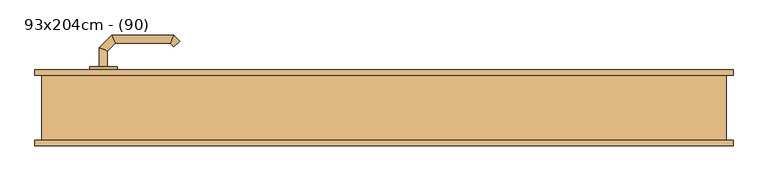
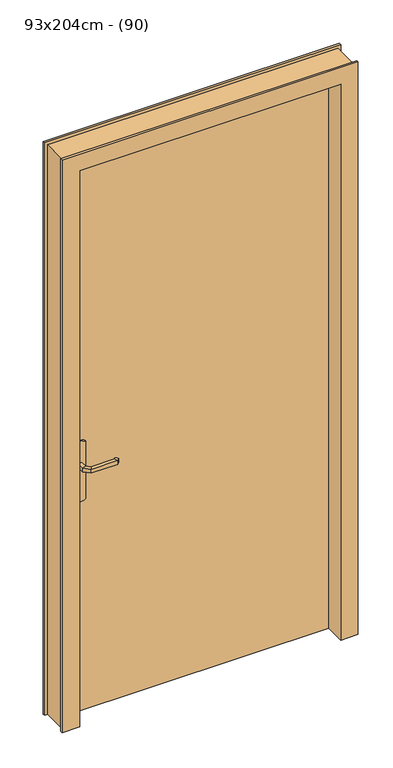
"""IFC4 building model written with IfcOpenShell, lengths in millimetres: door geometry, C&L Int. Simple vantail (dormant variable) : 93x204cm - (90)."""

import ifcopenshell
import ifcopenshell.guid

model = None  # the IFC model being written
_history = None  # IfcOwnerHistory: only IFC2X3 demands one
_inside = {}  # id of a spatial element -> (the spatial element, [elements in it])
_under = {}  # id of a project, library or spatial element -> (it, [spatial elements below it])
_declared = {}  # id of a project -> (the project, [libraries it declares])
_typed = {}  # id of a type object -> (the type object, [elements of that type])
_made_of = {}  # id of a material, layer set ... -> (it, [elements and type objects made of it])


def new_model(schema):
    """Start an empty IFC model of exactly this schema.

    Asked for "IFC4X3", IfcOpenShell would pick the latest addendum, in which some entities
    have other attributes; the version numbers below select the first issue.
    IFC2X3 requires an IfcOwnerHistory on every rooted entity: one is made here for all.
    """
    global model, _history
    if schema == "IFC4X3":
        model = ifcopenshell.file(schema_version=(4, 3, 0, 0))
    else:
        model = ifcopenshell.file(schema=schema)
    _inside.clear()
    _under.clear()
    _declared.clear()
    _typed.clear()
    _made_of.clear()
    _history = None
    if model.schema == "IFC2X3":
        org = make("IfcOrganization", Name="unknown")
        user = make(
            "IfcPersonAndOrganization",
            ThePerson=make("IfcPerson", FamilyName="unknown"),
            TheOrganization=org,
        )
        app = make(
            "IfcApplication",
            ApplicationDeveloper=org,
            Version="unknown",
            ApplicationFullName="unknown",
            ApplicationIdentifier="unknown",
        )
        _history = make(
            "IfcOwnerHistory",
            OwningUser=user,
            OwningApplication=app,
            ChangeAction="ADDED",
            CreationDate=0,
        )
    return model


def make(cls, **values):
    """One entity of the class cls with the attributes given. An attribute that is None is left unset."""
    return model.create_entity(
        cls, **{name: value for name, value in values.items() if value is not None}
    )


def rooted(cls, **values):
    """An entity with a GlobalId (a new one), such as an element, a storey or a relation."""
    return make(cls, GlobalId=ifcopenshell.guid.new(), OwnerHistory=_history, **values)


def si_unit(unit_type, name, prefix=None):
    """IfcSIUnit, for example si_unit("LENGTHUNIT", "METRE", prefix="MILLI")."""
    return make("IfcSIUnit", UnitType=unit_type, Prefix=prefix, Name=name)


def assignment(units):
    """IfcUnitAssignment: the units of a project."""
    return None if units is None else make("IfcUnitAssignment", Units=units)


def point(xyz):
    """IfcCartesianPoint."""
    return None if xyz is None else make("IfcCartesianPoint", Coordinates=xyz)


def direction(xyz):
    """IfcDirection."""
    return None if xyz is None else make("IfcDirection", DirectionRatios=xyz)


def frame(location, z_axis=None, x_axis=None):
    """IfcAxis2Placement3D, a coordinate frame: its origin and axes. An axis left out is left unset."""
    return make(
        "IfcAxis2Placement3D",
        Location=point(location),
        Axis=direction(z_axis),
        RefDirection=direction(x_axis),
    )


def frame_2d(location, x_axis=None):
    """IfcAxis2Placement2D, a coordinate frame in the plane: its origin and x axis."""
    return make(
        "IfcAxis2Placement2D", Location=point(location), RefDirection=direction(x_axis)
    )


def origin():
    """The frame at (0, 0, 0) with its axes left unset."""
    return frame((0.0, 0.0, 0.0))


def origin_with_axes():
    """The frame at (0, 0, 0) with the z axis (0, 0, 1) and the x axis (1, 0, 0) written out."""
    return frame((0.0, 0.0, 0.0), z_axis=(0.0, 0.0, 1.0), x_axis=(1.0, 0.0, 0.0))


def place(relative_to, where):
    """IfcLocalPlacement: puts the frame where relative to a parent placement (None: the world)."""
    return make(
        "IfcLocalPlacement", PlacementRelTo=relative_to, RelativePlacement=where
    )


def context(
    kind, dimensions, precision=None, world=None, true_north=None, identifier=None
):
    """IfcGeometricRepresentationContext, for example the 3D "Model" context."""
    return make(
        "IfcGeometricRepresentationContext",
        ContextIdentifier=identifier,
        ContextType=kind,
        CoordinateSpaceDimension=dimensions,
        Precision=precision,
        WorldCoordinateSystem=world,
        TrueNorth=true_north,
    )


def project(units=None, contexts=None):
    """IfcProject with its units and contexts."""
    return rooted(
        "IfcProject",
        Name="project",
        RepresentationContexts=contexts,
        UnitsInContext=assignment(units),
    )


def spatial(cls, under=None, at=None, **own):
    """A site, building, storey or space (cls), placed at a placement, below another one or the project."""
    s = rooted(cls, ObjectPlacement=at, **own)
    if under is not None:
        _under.setdefault(under.id(), (under, []))[1].append(s)
    return s


def polyline(points):
    """IfcPolyline through the points."""
    return make("IfcPolyline", Points=[point(p) for p in points])


def circle_curve(where, radius):
    """IfcCircle in the frame where."""
    return make("IfcCircle", Position=where, Radius=radius)


def ellipse_curve(where, semi_axis1, semi_axis2):
    """IfcEllipse in the frame where."""
    return make(
        "IfcEllipse", Position=where, SemiAxis1=semi_axis1, SemiAxis2=semi_axis2
    )


def trimmed(basis, trim1, trim2, sense, master):
    """IfcTrimmedCurve: the piece of a basis curve between two trims."""
    return make(
        "IfcTrimmedCurve",
        BasisCurve=basis,
        Trim1=trim1,
        Trim2=trim2,
        SenseAgreement=sense,
        MasterRepresentation=master,
    )


def segment(curve, same_sense, transition):
    """IfcCompositeCurveSegment."""
    return make(
        "IfcCompositeCurveSegment",
        Transition=transition,
        SameSense=same_sense,
        ParentCurve=curve,
    )


def composite_curve(segments, self_intersect=None):
    """IfcCompositeCurve: segments joined end to end."""
    return make("IfcCompositeCurve", Segments=segments, SelfIntersect=self_intersect)


def outline(outer, holes=None, kind="AREA"):
    """IfcArbitraryClosedProfileDef: a profile drawn as a closed curve; with holes, ...WithVoids."""
    if holes is None:
        return make("IfcArbitraryClosedProfileDef", ProfileType=kind, OuterCurve=outer)
    return make(
        "IfcArbitraryProfileDefWithVoids",
        ProfileType=kind,
        OuterCurve=outer,
        InnerCurves=holes,
    )


def extrude(swept, where, along, depth):
    """IfcExtrudedAreaSolid: the profile swept, set in the frame where, extruded along a direction by depth."""
    return make(
        "IfcExtrudedAreaSolid",
        SweptArea=swept,
        Position=where,
        ExtrudedDirection=direction(along),
        Depth=depth,
    )


def faces_of(points, faces, orient=None, outer=None):
    """IfcFace entities. A face is a list of loops; a loop is a list of indices into points, from 0.

    orient and outer hold one flag for each loop. By default every Orientation is true, the
    first loop of a face is its IfcFaceOuterBound and the others are IfcFaceBound.
    """
    made = []
    for i, loops in enumerate(faces):
        bounds = []
        for j, loop in enumerate(loops):
            is_outer = j == 0 if outer is None else outer[i][j]
            bounds.append(
                make(
                    "IfcFaceOuterBound" if is_outer else "IfcFaceBound",
                    Bound=make("IfcPolyLoop", Polygon=[points[k] for k in loop]),
                    Orientation=True if orient is None else orient[i][j],
                )
            )
        made.append(make("IfcFace", Bounds=bounds))
    return made


def faceted_brep(points, faces, orient=None, outer=None, voids=None):
    """IfcFacetedBrep: a solid bounded by flat faces; with voids (closed shells), ...WithVoids."""
    shared = [point(p) for p in points]
    hull = make("IfcClosedShell", CfsFaces=faces_of(shared, faces, orient, outer))
    if voids is None:
        return make("IfcFacetedBrep", Outer=hull)
    return make(
        "IfcFacetedBrepWithVoids",
        Outer=hull,
        Voids=[
            make(cls, CfsFaces=faces_of(shared, fs, o, b)) for cls, fs, o, b in voids
        ],
    )


def shape(context_of_items, identifier, shape_type, items):
    """IfcShapeRepresentation: the items that make up one representation, for example the "Body"."""
    return make(
        "IfcShapeRepresentation",
        ContextOfItems=context_of_items,
        RepresentationIdentifier=identifier,
        RepresentationType=shape_type,
        Items=items,
    )


def source(mapping_origin, context_of_items, identifier, shape_type, items):
    """IfcRepresentationMap: a shape defined once, which mapped items show again and again."""
    return make(
        "IfcRepresentationMap",
        MappingOrigin=mapping_origin,
        MappedRepresentation=shape(context_of_items, identifier, shape_type, items),
    )


def transform(
    local_origin,
    x_axis=None,
    y_axis=None,
    z_axis=None,
    scale=None,
    scale2=None,
    scale3=None,
    uniform=True,
):
    """IfcCartesianTransformationOperator3D, or its non-uniform kind. x_axis, y_axis, z_axis: its Axis1, 2, 3."""
    if uniform:
        return make(
            "IfcCartesianTransformationOperator3D",
            Axis1=direction(x_axis),
            Axis2=direction(y_axis),
            LocalOrigin=point(local_origin),
            Scale=scale,
            Axis3=direction(z_axis),
        )
    return make(
        "IfcCartesianTransformationOperator3DnonUniform",
        Axis1=direction(x_axis),
        Axis2=direction(y_axis),
        LocalOrigin=point(local_origin),
        Scale=scale,
        Axis3=direction(z_axis),
        Scale2=scale2,
        Scale3=scale3,
    )


def mapped(mapping_source, mapping_target):
    """IfcMappedItem: shows the shape of a source again, moved by a transform."""
    return make(
        "IfcMappedItem", MappingSource=mapping_source, MappingTarget=mapping_target
    )


def made_of(thing, what):
    """Note that an element or type object is made of a material, layer set ...; save() writes the relation."""
    if what is not None:
        _made_of.setdefault(what.id(), (what, []))[1].append(thing)
    return thing


def element(
    cls,
    number,
    at=None,
    inside=None,
    cuts=None,
    type_object=None,
    material=None,
    context=None,
    identifier="Body",
    shape_type=None,
    held_by="IfcProductDefinitionShape",
    body=None,
    shapes=None,
    **own,
):
    """One element of the class cls, such as IfcWall. Its Tag is "e" and its number.

    at: its placement. inside: the storey or other place that contains it. cuts: it is an
    opening in that element (IfcRelVoidsElement). A single representation is given by context,
    identifier, shape_type and body (its items); several are given by shapes. held_by: the class
    of the entity that holds the representations. save() writes the other relations.
    """
    e = rooted(cls, Tag="e%d" % number, ObjectPlacement=at, **own)
    if body is not None:
        shapes = [shape(context, identifier, shape_type, body)]
    if shapes is not None:
        e.Representation = make(held_by, Representations=shapes)
    if inside is not None:
        _inside.setdefault(inside.id(), (inside, []))[1].append(e)
    if cuts is not None:
        rooted(
            "IfcRelVoidsElement", RelatingBuildingElement=cuts, RelatedOpeningElement=e
        )
    if type_object is not None:
        _typed.setdefault(type_object.id(), (type_object, []))[1].append(e)
    return made_of(e, material)


def aggregate(whole, parts):
    """IfcRelAggregates: a whole, such as a stair, and the parts it consists of."""
    return rooted("IfcRelAggregates", RelatingObject=whole, RelatedObjects=parts)


def save(model, path):
    """Write the relations noted so far, then the file.

    IfcRelAggregates (storeys below a building ...), IfcRelContainedInSpatialStructure (elements
    in a storey), IfcRelDefinesByType, IfcRelAssociatesMaterial and IfcRelDeclares: one each for
    every whole, place, type object, material and project.
    """
    for whole, parts in _under.values():
        aggregate(whole, parts)
    for where, things in _inside.values():
        rooted(
            "IfcRelContainedInSpatialStructure",
            RelatedElements=things,
            RelatingStructure=where,
        )
    for kind, things in _typed.values():
        rooted("IfcRelDefinesByType", RelatedObjects=things, RelatingType=kind)
    for what, things in _made_of.values():
        rooted("IfcRelAssociatesMaterial", RelatedObjects=things, RelatingMaterial=what)
    for by, libraries in _declared.values():
        rooted("IfcRelDeclares", RelatingContext=by, RelatedDefinitions=libraries)
    model.write(path)


def plane_surface(at):
    """IfcPlane: the flat surface through the origin of the frame at, square to its z axis."""
    return make("IfcPlane", Position=at)


def cylinder_surface(at, radius):
    """IfcCylindricalSurface: all points at the distance radius from the z axis of the frame at."""
    return make("IfcCylindricalSurface", Position=at, Radius=radius)


def advanced_brep(points, edges, surfaces, faces):
    """IfcAdvancedBrep: a solid bounded by faces that lie on surfaces and meet in shared edges.

    An edge is (start, end): straight between two places in points (the first is 0);
    or (start, end, curve); or (start, end, curve, False) where it runs against its curve.
    A face is (place in surfaces, loops), or (place, loops, False) where it looks against
    its surface's normal. A loop lists edges by number (the first is 1), with a minus sign
    where the edge is run from its end to its start. The first loop is the outer one.
    """
    corners = [point(p) for p in points]
    vertices = [make("IfcVertexPoint", VertexGeometry=c) for c in corners]
    made = []
    for start, end, *more in edges:
        made.append(
            make(
                "IfcEdgeCurve",
                EdgeStart=vertices[start],
                EdgeEnd=vertices[end],
                EdgeGeometry=more[0] if more else make("IfcPolyline", Points=[corners[start], corners[end]]),
                SameSense=more[1] if len(more) > 1 else True,
            )
        )
    hull = []
    for where, loops, *sense in faces:
        bounds = []
        for j, loop in enumerate(loops):
            ring = [make("IfcOrientedEdge", EdgeElement=made[abs(k) - 1], Orientation=k > 0) for k in loop]
            bounds.append(
                make(
                    "IfcFaceOuterBound" if j == 0 else "IfcFaceBound",
                    Bound=make("IfcEdgeLoop", EdgeList=ring),
                    Orientation=True,
                )
            )
        hull.append(make("IfcAdvancedFace", Bounds=bounds, FaceSurface=surfaces[where], SameSense=sense[0] if sense else True))
    return make("IfcAdvancedBrep", Outer=make("IfcClosedShell", CfsFaces=hull))


def door_93x204cm_90_b22feca0(model_context):
    return source(origin(), model_context, "Body", "SolidModel", [
        extrude(outline(composite_curve([segment(trimmed(circle_curve(frame_2d((804.6410162, -410.0)), 40.0), [point((770.0, -430.0))], [point((770.0, -390.0))], False, "CARTESIAN"), True, "CONTINUOUS"), segment(polyline([(770.0, -390.0), (980.0, -390.0)]), True, "CONTINUOUS"), segment(trimmed(circle_curve(frame_2d((945.3589838, -410.0)), 40.0), [point((980.0, -390.0))], [point((980.0, -430.0))], False, "CARTESIAN"), True, "CONTINUOUS"), segment(polyline([(980.0, -430.0), (770.0, -430.0)]), True, "CONTINUOUS")], self_intersect=False)), frame((0.0, 55.5, 0.0), z_axis=(0.0, 1.0, 0.0), x_axis=(0.0, 0.0, 1.0)), (0.0, 0.0, 1.0), 5.0),
        extrude(outline(composite_curve([segment(trimmed(circle_curve(frame_2d((945.3589838, -410.0)), 40.0), [point((980.0, -390.0))], [point((980.0, -430.0))], False, "CARTESIAN"), True, "CONTINUOUS"), segment(polyline([(980.0, -430.0), (770.0, -430.0)]), True, "CONTINUOUS"), segment(trimmed(circle_curve(frame_2d((804.6410162, -410.0)), 40.0), [point((770.0, -430.0))], [point((770.0, -390.0))], False, "CARTESIAN"), True, "CONTINUOUS"), segment(polyline([(770.0, -390.0), (980.0, -390.0)]), True, "CONTINUOUS")], self_intersect=False)), frame((0.0, 10.5, 0.0), z_axis=(0.0, 1.0, 0.0), x_axis=(0.0, 0.0, 1.0)), (0.0, 0.0, 1.0), 5.0),
        advanced_brep(
        [(-416.0, 60.5, 907.0), (-416.0, 60.5, 893.0), (-404.0, 60.5, 893.0), (-404.0, 60.5, 907.0), (-404.0, 83.180388, 907.0), (-416.0, 88.1509507, 907.0), (-404.0, 83.180388, 893.0), (-416.0, 88.1509507, 893.0), (-392.6522273, 94.5281607, 907.0), (-397.62279, 106.5281607, 907.0), (-392.6522273, 94.5281607, 893.0), (-397.62279, 106.5281607, 893.0), (-312.4666408, 94.5281607, 907.0), (-307.496078, 106.5281607, 907.0), (-312.4666408, 94.5281607, 893.0), (-307.496078, 106.5281607, 893.0), (-298.6676509, 97.6997336, 907.0), (-307.1529323, 89.2144522, 907.0), (-307.1529323, 89.2144522, 893.0), (-298.6676509, 97.6997336, 893.0)],
        [
            (0, 1),
            (1, 2, circle_curve(frame((-410.0, 60.5, 913.0457722), z_axis=(0.0, -1.0, 0.0), x_axis=(1.0, 0.0, 0.0)), 20.9244589)),
            (2, 3),
            (3, 0, circle_curve(frame((-410.0, 60.5, 886.9542278), z_axis=(0.0, -1.0, 0.0), x_axis=(1.0, 0.0, 0.0)), 20.9244589)),
            (3, 4),
            (4, 5, ellipse_curve(frame((-410.0, 85.6656693, 886.9542278), z_axis=(-0.3826834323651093, -0.9238795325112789, 0.0), x_axis=(0.9238795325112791, -0.38268343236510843, 0.0)), 22.6484711, 20.9244589)),
            (5, 0),
            (2, 6),
            (6, 4),
            (1, 7),
            (7, 6, ellipse_curve(frame((-410.0, 85.6656693, 913.0457722), z_axis=(-0.3826834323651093, -0.9238795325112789, 0.0), x_axis=(0.9238795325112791, -0.38268343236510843, 0.0)), 22.6484711, 20.9244589)),
            (5, 7),
            (4, 8),
            (8, 9, ellipse_curve(frame((-395.1375086, 100.5281607, 886.9542278), z_axis=(-0.9238795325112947, -0.38268343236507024, 0.0), x_axis=(0.3826834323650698, -0.9238795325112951, 0.0)), 22.6484711, 20.9244589)),
            (9, 5),
            (6, 10),
            (10, 8),
            (7, 11),
            (11, 10, ellipse_curve(frame((-395.1375086, 100.5281607, 913.0457722), z_axis=(-0.9238795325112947, -0.38268343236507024, 0.0), x_axis=(0.3826834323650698, -0.9238795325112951, 0.0)), 22.6484711, 20.9244589)),
            (9, 11),
            (8, 12),
            (12, 13, ellipse_curve(frame((-309.9813594, 100.5281607, 886.9542278), z_axis=(-0.9238795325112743, 0.3826834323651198, 0.0), x_axis=(-0.38268343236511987, -0.9238795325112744, 0.0)), 22.6484711, 20.9244589)),
            (13, 9),
            (10, 14),
            (14, 12),
            (11, 15),
            (15, 14, ellipse_curve(frame((-309.9813594, 100.5281607, 913.0457722), z_axis=(-0.9238795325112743, 0.3826834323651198, 0.0), x_axis=(-0.38268343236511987, -0.9238795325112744, 0.0)), 22.6484711, 20.9244589)),
            (13, 15),
            (16, 17, circle_curve(frame((-302.9102916, 93.4570929, 886.9542278), z_axis=(0.7071067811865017, -0.7071067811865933, 0.0), x_axis=(-0.7071067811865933, -0.7071067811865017, 0.0)), 20.9244589)),
            (17, 18),
            (18, 19, circle_curve(frame((-302.9102916, 93.4570929, 913.0457722), z_axis=(0.7071067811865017, -0.7071067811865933, 0.0), x_axis=(-0.7071067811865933, -0.7071067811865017, 0.0)), 20.9244589)),
            (19, 16),
            (12, 17),
            (16, 13),
            (14, 18),
            (15, 19),
        ],
        [
            plane_surface(frame((-419.2195445, 60.5, 900.0), z_axis=(0.0, -1.0, 0.0), x_axis=(0.0, 0.0, -1.0))),
            cylinder_surface(frame((-410.0, 60.5, 886.9542278), z_axis=(0.0, -1.0, 0.0), x_axis=(1.0, 0.0, 0.0)), 20.9244589),
            plane_surface(frame((-404.0, 60.5, 907.0), z_axis=(1.0, 0.0, 0.0), x_axis=(0.0, 1.0, 0.0))),
            cylinder_surface(frame((-410.0, 60.5, 913.0457722), z_axis=(0.0, -1.0, 0.0), x_axis=(1.0, 0.0, 0.0)), 20.9244589),
            plane_surface(frame((-416.0, 60.5, 893.0), z_axis=(-1.0, 0.0, 0.0), x_axis=(0.0, 1.0, 0.0))),
            cylinder_surface(frame((-410.0, 85.6656693, 886.9542278), z_axis=(-0.7071067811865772, -0.7071067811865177, 0.0), x_axis=(0.7071067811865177, -0.7071067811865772, 0.0)), 20.9244589),
            plane_surface(frame((-404.0, 83.180388, 907.0), z_axis=(0.7071067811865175, -0.7071067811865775, 0.0), x_axis=(0.7071067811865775, 0.7071067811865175, 0.0))),
            cylinder_surface(frame((-410.0, 85.6656693, 913.0457722), z_axis=(-0.7071067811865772, -0.7071067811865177, 0.0), x_axis=(0.7071067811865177, -0.7071067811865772, 0.0)), 20.9244589),
            plane_surface(frame((-416.0, 88.1509507, 893.0), z_axis=(-0.7071067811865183, 0.7071067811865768, 0.0), x_axis=(0.7071067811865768, 0.7071067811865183, 0.0))),
            cylinder_surface(frame((-395.1375086, 100.5281607, 886.9542278), z_axis=(-1.0, 0.0, 0.0), x_axis=(0.0, -1.0, 0.0)), 20.9244589),
            plane_surface(frame((-392.6522273, 94.5281607, 907.0), z_axis=(0.0, -1.0, 0.0), x_axis=(1.0, 0.0, 0.0))),
            cylinder_surface(frame((-395.1375086, 100.5281607, 913.0457722), z_axis=(-1.0, 0.0, 0.0), x_axis=(0.0, -1.0, 0.0)), 20.9244589),
            plane_surface(frame((-397.62279, 106.5281607, 893.0), z_axis=(0.0, 1.0, 0.0), x_axis=(1.0, 0.0, 0.0))),
            plane_surface(frame((-302.9102916, 93.4570929, 909.2195445), z_axis=(0.7071067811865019, -0.7071067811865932, 0.0), x_axis=(0.7071067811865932, 0.7071067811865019, 0.0))),
            cylinder_surface(frame((-309.9813594, 100.5281607, 886.9542278), z_axis=(-0.7071067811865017, 0.7071067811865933, 0.0), x_axis=(-0.7071067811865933, -0.7071067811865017, 0.0)), 20.9244589),
            plane_surface(frame((-312.4666408, 94.5281607, 907.0), z_axis=(-0.7071067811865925, -0.7071067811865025, 0.0), x_axis=(0.7071067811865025, -0.7071067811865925, 0.0))),
            cylinder_surface(frame((-309.9813594, 100.5281607, 913.0457722), z_axis=(-0.7071067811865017, 0.7071067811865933, 0.0), x_axis=(-0.7071067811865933, -0.7071067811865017, 0.0)), 20.9244589),
            plane_surface(frame((-307.496078, 106.5281607, 893.0), z_axis=(0.707106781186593, 0.7071067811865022, 0.0), x_axis=(0.7071067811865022, -0.707106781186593, 0.0))),
        ],
        [
            (0, [[1, 2, 3, 4]]),
            (1, [[5, 6, 7, -4]]),
            (2, [[8, 9, -5, -3]]),
            (3, [[10, 11, -8, -2]]),
            (4, [[-7, 12, -10, -1]]),
            (5, [[13, 14, 15, -6]]),
            (6, [[16, 17, -13, -9]]),
            (7, [[18, 19, -16, -11]]),
            (8, [[-15, 20, -18, -12]]),
            (9, [[21, 22, 23, -14]]),
            (10, [[24, 25, -21, -17]]),
            (11, [[26, 27, -24, -19]]),
            (12, [[-23, 28, -26, -20]]),
            (13, [[29, 30, 31, 32]]),
            (14, [[33, -29, 34, -22]]),
            (15, [[35, -30, -33, -25]]),
            (16, [[36, -31, -35, -27]]),
            (17, [[-34, -32, -36, -28]]),
        ],
    ),
        advanced_brep(
        [(-404.0, 10.5, 893.0), (-416.0, 10.5, 893.0), (-416.0, 10.5, 907.0), (-404.0, 10.5, 907.0), (-404.0, -11.9852045, 907.0), (-404.0, -11.9852045, 893.0), (-416.0, -16.9557673, 907.0), (-416.0, -16.9557673, 893.0), (-392.5147186, -23.4704859, 907.0), (-392.5147186, -23.4704859, 893.0), (-397.4852814, -35.4704859, 907.0), (-397.4852814, -35.4704859, 893.0), (-312.4394977, -23.4704859, 907.0), (-312.4394977, -23.4704859, 893.0), (-307.468935, -35.4704859, 907.0), (-307.468935, -35.4704859, 893.0), (-307.1257892, -18.1567774, 893.0), (-307.1257892, -18.1567774, 907.0), (-298.6405078, -26.6420588, 907.0), (-298.6405078, -26.6420588, 893.0)],
        [
            (0, 1, circle_curve(frame((-410.0, 10.5, 913.0457722), z_axis=(0.0, 1.0, 0.0), x_axis=(-1.0, 0.0, 0.0)), 20.9244589)),
            (1, 2),
            (2, 3, circle_curve(frame((-410.0, 10.5, 886.9542278), z_axis=(0.0, 1.0, 0.0), x_axis=(-1.0, 0.0, 0.0)), 20.9244589)),
            (3, 0),
            (3, 4),
            (4, 5),
            (5, 0),
            (2, 6),
            (6, 4, ellipse_curve(frame((-410.0, -14.4704859, 886.9542278), z_axis=(-0.3826834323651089, 0.9238795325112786, 0.0), x_axis=(0.9238795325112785, 0.3826834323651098, 0.0)), 22.6484711, 20.9244589)),
            (1, 7),
            (7, 6),
            (5, 7, ellipse_curve(frame((-410.0, -14.4704859, 913.0457722), z_axis=(-0.3826834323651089, 0.9238795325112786, 0.0), x_axis=(0.9238795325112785, 0.3826834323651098, 0.0)), 22.6484711, 20.9244589)),
            (4, 8),
            (8, 9),
            (9, 5),
            (6, 10),
            (10, 8, ellipse_curve(frame((-395.0, -29.4704859, 886.9542278), z_axis=(-0.9238795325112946, 0.38268343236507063, 0.0), x_axis=(0.3826834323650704, 0.9238795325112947, 0.0)), 22.6484711, 20.9244589)),
            (7, 11),
            (11, 10),
            (9, 11, ellipse_curve(frame((-395.0, -29.4704859, 913.0457722), z_axis=(-0.9238795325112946, 0.38268343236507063, 0.0), x_axis=(0.3826834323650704, 0.9238795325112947, 0.0)), 22.6484711, 20.9244589)),
            (8, 12),
            (12, 13),
            (13, 9),
            (10, 14),
            (14, 12, ellipse_curve(frame((-309.9542163, -29.4704859, 886.9542278), z_axis=(-0.9238795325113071, -0.38268343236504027, 0.0), x_axis=(-0.38268343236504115, 0.9238795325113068, 0.0)), 22.6484711, 20.9244589)),
            (11, 15),
            (15, 14),
            (13, 15, ellipse_curve(frame((-309.9542163, -29.4704859, 913.0457722), z_axis=(-0.9238795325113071, -0.38268343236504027, 0.0), x_axis=(-0.38268343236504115, 0.9238795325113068, 0.0)), 22.6484711, 20.9244589)),
            (16, 17),
            (17, 18, circle_curve(frame((-302.8831485, -22.3994181, 886.9542278), z_axis=(0.7071067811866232, 0.7071067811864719, 0.0), x_axis=(0.7071067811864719, -0.7071067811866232, 0.0)), 20.9244589)),
            (18, 19),
            (19, 16, circle_curve(frame((-302.8831485, -22.3994181, 913.0457722), z_axis=(0.7071067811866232, 0.7071067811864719, 0.0), x_axis=(0.7071067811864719, -0.7071067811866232, 0.0)), 20.9244589)),
            (12, 17),
            (16, 13),
            (14, 18),
            (15, 19),
        ],
        [
            plane_surface(frame((-419.2195445, 10.5, 900.0), z_axis=(0.0, 1.0, 0.0), x_axis=(0.0, 0.0, 1.0))),
            plane_surface(frame((-404.0, 10.5, 893.0), z_axis=(1.0, 0.0, 0.0), x_axis=(0.0, -1.0, 0.0))),
            cylinder_surface(frame((-410.0, 10.5, 886.9542278), z_axis=(0.0, 1.0, 0.0), x_axis=(-1.0, 0.0, 0.0)), 20.9244589),
            plane_surface(frame((-416.0, 10.5, 907.0), z_axis=(-1.0, 0.0, 0.0), x_axis=(0.0, -1.0, 0.0))),
            cylinder_surface(frame((-410.0, 10.5, 913.0457722), z_axis=(0.0, 1.0, 0.0), x_axis=(-1.0, 0.0, 0.0)), 20.9244589),
            plane_surface(frame((-404.0, -11.9852045, 893.0), z_axis=(0.707106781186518, 0.707106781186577, 0.0), x_axis=(0.707106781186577, -0.707106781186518, 0.0))),
            cylinder_surface(frame((-410.0, -14.4704859, 886.9542278), z_axis=(-0.7071067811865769, 0.7071067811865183, 0.0), x_axis=(-0.7071067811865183, -0.7071067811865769, 0.0)), 20.9244589),
            plane_surface(frame((-416.0, -16.9557673, 907.0), z_axis=(-0.7071067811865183, -0.7071067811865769, 0.0), x_axis=(0.7071067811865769, -0.7071067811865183, 0.0))),
            cylinder_surface(frame((-410.0, -14.4704859, 913.0457722), z_axis=(-0.7071067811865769, 0.7071067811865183, 0.0), x_axis=(-0.7071067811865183, -0.7071067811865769, 0.0)), 20.9244589),
            plane_surface(frame((-392.5147186, -23.4704859, 893.0), z_axis=(0.0, 1.0, 0.0), x_axis=(1.0, 0.0, 0.0))),
            cylinder_surface(frame((-395.0, -29.4704859, 886.9542278), z_axis=(-1.0, 0.0, 0.0), x_axis=(0.0, -1.0, 0.0)), 20.9244589),
            plane_surface(frame((-397.4852814, -35.4704859, 907.0), z_axis=(0.0, -1.0, 0.0), x_axis=(1.0, 0.0, 0.0))),
            cylinder_surface(frame((-395.0, -29.4704859, 913.0457722), z_axis=(-1.0, 0.0, 0.0), x_axis=(0.0, -1.0, 0.0)), 20.9244589),
            plane_surface(frame((-302.8831485, -22.3994181, 890.7804555), z_axis=(0.7071067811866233, 0.7071067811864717, 0.0), x_axis=(0.7071067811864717, -0.7071067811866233, 0.0))),
            plane_surface(frame((-312.4394977, -23.4704859, 893.0), z_axis=(-0.7071067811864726, 0.7071067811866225, 0.0), x_axis=(0.7071067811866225, 0.7071067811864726, 0.0))),
            cylinder_surface(frame((-309.9542163, -29.4704859, 886.9542278), z_axis=(-0.7071067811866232, -0.7071067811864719, 0.0), x_axis=(0.7071067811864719, -0.7071067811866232, 0.0)), 20.9244589),
            plane_surface(frame((-307.468935, -35.4704859, 907.0), z_axis=(0.7071067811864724, -0.7071067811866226, 0.0), x_axis=(0.7071067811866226, 0.7071067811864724, 0.0))),
            cylinder_surface(frame((-309.9542163, -29.4704859, 913.0457722), z_axis=(-0.7071067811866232, -0.7071067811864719, 0.0), x_axis=(0.7071067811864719, -0.7071067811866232, 0.0)), 20.9244589),
        ],
        [
            (0, [[1, 2, 3, 4]]),
            (1, [[5, 6, 7, -4]]),
            (2, [[8, 9, -5, -3]]),
            (3, [[10, 11, -8, -2]]),
            (4, [[-7, 12, -10, -1]]),
            (5, [[13, 14, 15, -6]]),
            (6, [[16, 17, -13, -9]]),
            (7, [[18, 19, -16, -11]]),
            (8, [[-15, 20, -18, -12]]),
            (9, [[21, 22, 23, -14]]),
            (10, [[24, 25, -21, -17]]),
            (11, [[26, 27, -24, -19]]),
            (12, [[-23, 28, -26, -20]]),
            (13, [[29, 30, 31, 32]]),
            (14, [[33, -29, 34, -22]]),
            (15, [[35, -30, -33, -25]]),
            (16, [[36, -31, -35, -27]]),
            (17, [[-34, -32, -36, -28]]),
        ],
    ),
        faceted_brep([(-500.0, 47.5, 0.0), (-510.0, 47.5, 0.0), (-510.0, 55.5, 0.0), (-465.0, 55.5, 0.0), (-465.0, 15.5, 0.0), (-450.0, 15.5, 0.0), (-450.0, -55.5, 0.0), (-510.0, -55.5, 0.0), (-510.0, -47.5, 0.0), (-500.0, -47.5, 0.0), (-500.0, -47.5, 2075.0), (-500.0, 47.5, 2075.0), (-510.0, -47.5, 2085.0), (510.0, -47.5, 2085.0), (510.0, -47.5, 0.0), (500.0, -47.5, 0.0), (500.0, -47.5, 2075.0), (-510.0, -55.5, 2085.0), (-450.0, -55.5, 2025.0), (450.0, -55.5, 2025.0), (450.0, -55.5, 0.0), (510.0, -55.5, 0.0), (510.0, -55.5, 2085.0), (-450.0, 15.5, 2025.0), (-465.0, 15.5, 2040.0), (465.0, 15.5, 2040.0), (465.0, 15.5, 0.0), (450.0, 15.5, 0.0), (450.0, 15.5, 2025.0), (-465.0, 55.5, 2040.0), (-510.0, 55.5, 2085.0), (510.0, 55.5, 2085.0), (510.0, 55.5, 0.0), (465.0, 55.5, 0.0), (465.0, 55.5, 2040.0), (-510.0, 47.5, 2085.0), (500.0, 47.5, 2075.0), (500.0, 47.5, 0.0), (510.0, 47.5, 0.0), (510.0, 47.5, 2085.0)], [[[0, 1, 2, 3, 4, 5, 6, 7, 8, 9]], [[9, 10, 11, 0]], [[8, 12, 13, 14, 15, 16, 10, 9]], [[7, 17, 12, 8]], [[6, 18, 19, 20, 21, 22, 17, 7]], [[5, 23, 18, 6]], [[4, 24, 25, 26, 27, 28, 23, 5]], [[3, 29, 24, 4]], [[2, 30, 31, 32, 33, 34, 29, 3]], [[1, 35, 30, 2]], [[0, 11, 36, 37, 38, 39, 35, 1]], [[10, 16, 36, 11]], [[17, 22, 13, 12]], [[23, 28, 19, 18]], [[29, 34, 25, 24]], [[35, 39, 31, 30]], [[37, 15, 14, 21, 20, 27, 26, 33, 32, 38]], [[16, 15, 37, 36]], [[22, 21, 14, 13]], [[28, 27, 20, 19]], [[34, 33, 26, 25]], [[39, 38, 32, 31]]]),
        extrude(outline(polyline([(465.0, 55.5), (465.0, 15.5), (-465.0, 15.5), (-465.0, 55.5), (465.0, 55.5)])), origin_with_axes(), (0.0, 0.0, 1.0), 2040.0),
    ])


if __name__ == "__main__":
    model = new_model("IFC4")
    model_context = context("Model", 3, world=origin())
    ifc_project = project(units=[si_unit("LENGTHUNIT", "METRE", prefix="MILLI")], contexts=[model_context])
    site = spatial("IfcSite", under=ifc_project)
    building = spatial("IfcBuilding", under=site)
    placement = place(None, origin())
    door_93x204cm_90_shape = door_93x204cm_90_b22feca0(model_context)
    element("IfcDoor", 1, ObjectType="C&L Int. Simple vantail (dormant variable) : 93x204cm - (90)", at=placement, inside=building, context=model_context, shape_type="MappedRepresentation", body=[
        mapped(door_93x204cm_90_shape, transform((0.0, 0.0, 0.0), x_axis=(1.0, 0.0, 0.0), y_axis=(0.0, 1.0, 0.0), z_axis=(0.0, 0.0, 1.0))),
    ])
    save(model, "model.ifc")
